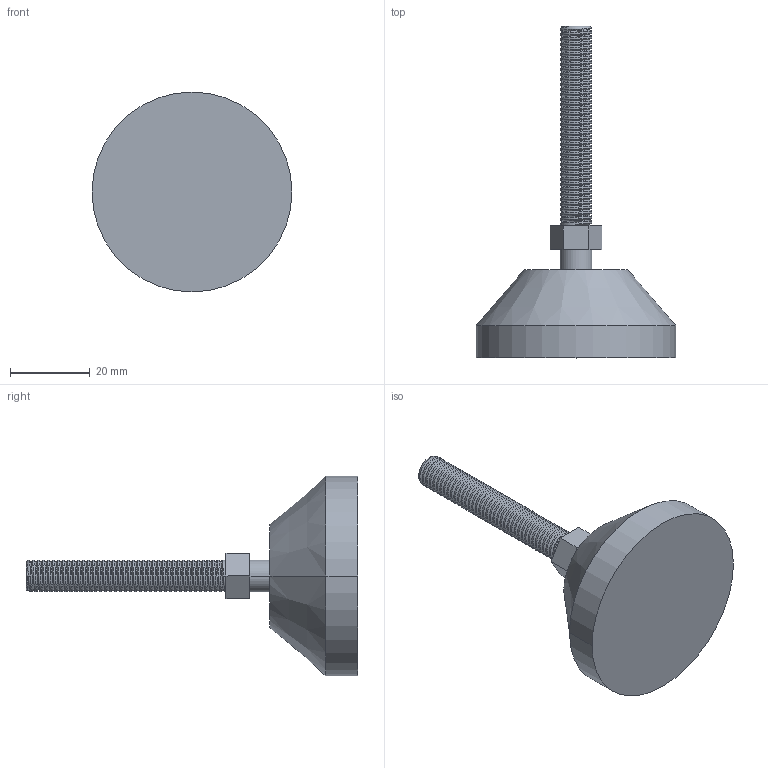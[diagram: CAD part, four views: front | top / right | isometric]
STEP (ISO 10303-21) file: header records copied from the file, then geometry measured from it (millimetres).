
FILE_DESCRIPTION (( 'STEP AP203' ), '1' );
FILE_NAME ('223-CE-DAF-8.STEP', '2015-07-09T09:30:44', ( '' ), ( '' ), 'SwSTEP 2.0', 'SolidWorks 2013', '' );
FILE_SCHEMA (( 'CONFIG_CONTROL_DESIGN' ));
Length unit declared in the file: millimetre
Products named in the file (1): 223-CE-DAF-8
Bounding box: 50 x 83 x 50 mm (x, y, z)
Volume: 35294.4 mm3; surface area: 8317.6 mm2
Topology: 1 solids, 1 shells, 109 faces, 308 edges, 204 vertices
Faces by surface type: cylinder 89, plane 12, torus 3, bspline 3, cone 2
Entity records: 7741 total; most frequent: CARTESIAN_POINT 5334, ORIENTED_EDGE 616, DIRECTION 373, EDGE_CURVE 308, VERTEX_POINT 204, AXIS2_PLACEMENT_3D 130, VECTOR 113, LINE 113
